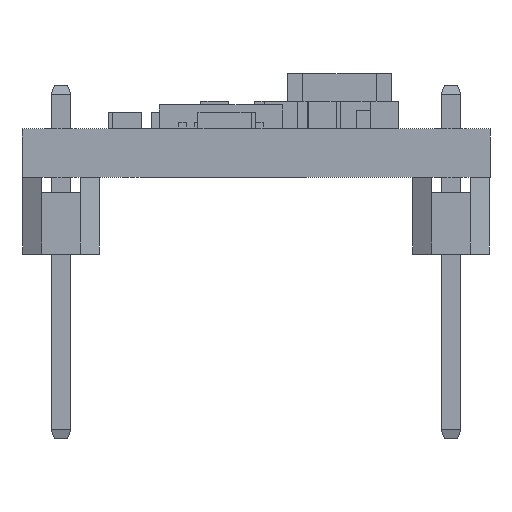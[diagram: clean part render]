
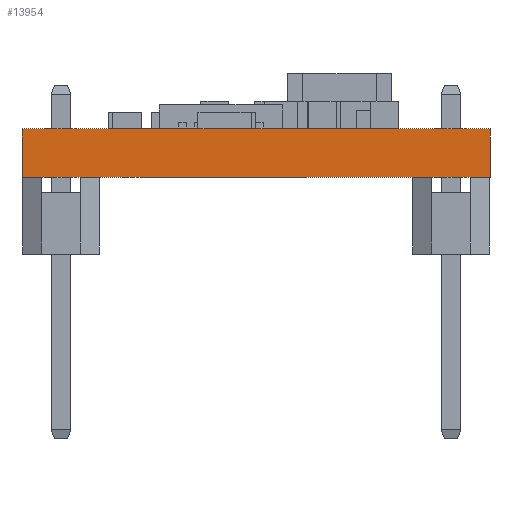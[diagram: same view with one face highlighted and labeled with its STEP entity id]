
A CAD part, front view. The second image highlights one B-rep face of the part: STEP entity #13954.
In plain terms, the highlighted planar face has unit normal (0, -1, 0).
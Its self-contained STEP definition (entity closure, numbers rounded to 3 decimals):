
#6240 = DIRECTION ( 'NONE',  ( 0., 0., 1. ) ) ;
#7667 = DIRECTION ( 'NONE',  ( 0., 0., -1. ) ) ;
#10764 = CARTESIAN_POINT ( 'NONE',  ( 0., 0., 1.575 ) ) ;
#13823 = VERTEX_POINT ( 'NONE', #38461 ) ;
#13954 = ADVANCED_FACE ( 'NONE', ( #58677 ), #49016, .F. ) ;
#15006 = EDGE_LOOP ( 'NONE', ( #50965, #61101, #32239, #34077 ) ) ;
#16587 = DIRECTION ( 'NONE',  ( 0., 1., 0. ) ) ;
#17499 = VECTOR ( 'NONE', #7667, 1000. ) ;
#19933 = LINE ( 'NONE', #39452, #47504 ) ;
#20255 = EDGE_CURVE ( 'NONE', #13823, #45328, #19933, .T. ) ;
#22885 = CARTESIAN_POINT ( 'NONE',  ( 15.24, 0., 1.575 ) ) ;
#24048 = EDGE_CURVE ( 'NONE', #38670, #58647, #29890, .T. ) ;
#26672 = DIRECTION ( 'NONE',  ( 1., 0., 0. ) ) ;
#29890 = LINE ( 'NONE', #39786, #30927 ) ;
#30927 = VECTOR ( 'NONE', #43660, 1000. ) ;
#30945 = AXIS2_PLACEMENT_3D ( 'NONE', #10764, #16587, #6240 ) ;
#31650 = LINE ( 'NONE', #61809, #56604 ) ;
#31967 = DIRECTION ( 'NONE',  ( 0., 0., -1. ) ) ;
#32012 = EDGE_CURVE ( 'NONE', #45328, #58647, #33625, .T. ) ;
#32239 = ORIENTED_EDGE ( 'NONE', *, *, #20255, .F. ) ;
#33625 = LINE ( 'NONE', #62818, #17499 ) ;
#34077 = ORIENTED_EDGE ( 'NONE', *, *, #52315, .T. ) ;
#38461 = CARTESIAN_POINT ( 'NONE',  ( 0., 0., 1.575 ) ) ;
#38670 = VERTEX_POINT ( 'NONE', #45572 ) ;
#39452 = CARTESIAN_POINT ( 'NONE',  ( 0., 0., 1.575 ) ) ;
#39786 = CARTESIAN_POINT ( 'NONE',  ( 0., 0., 0. ) ) ;
#43660 = DIRECTION ( 'NONE',  ( 1., 0., 0. ) ) ;
#45328 = VERTEX_POINT ( 'NONE', #22885 ) ;
#45572 = CARTESIAN_POINT ( 'NONE',  ( 0., 0., 0. ) ) ;
#47204 = CARTESIAN_POINT ( 'NONE',  ( 15.24, 0., 0. ) ) ;
#47504 = VECTOR ( 'NONE', #26672, 1000. ) ;
#49016 = PLANE ( 'NONE',  #30945 ) ;
#50965 = ORIENTED_EDGE ( 'NONE', *, *, #24048, .T. ) ;
#52315 = EDGE_CURVE ( 'NONE', #13823, #38670, #31650, .T. ) ;
#56604 = VECTOR ( 'NONE', #31967, 1000. ) ;
#58647 = VERTEX_POINT ( 'NONE', #47204 ) ;
#58677 = FACE_OUTER_BOUND ( 'NONE', #15006, .T. ) ;
#61101 = ORIENTED_EDGE ( 'NONE', *, *, #32012, .F. ) ;
#61809 = CARTESIAN_POINT ( 'NONE',  ( 0., 0., 1.575 ) ) ;
#62818 = CARTESIAN_POINT ( 'NONE',  ( 15.24, 0., 1.575 ) ) ;
